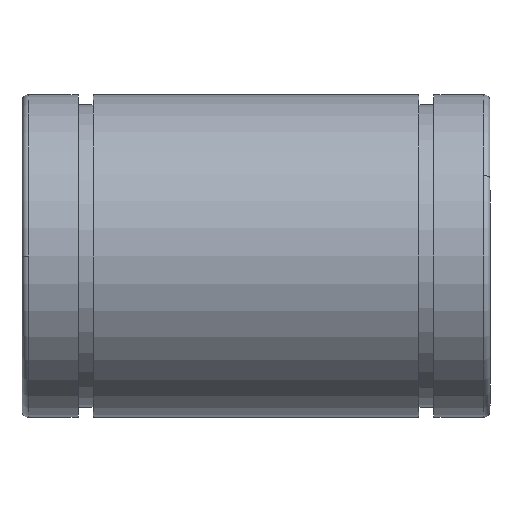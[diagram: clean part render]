
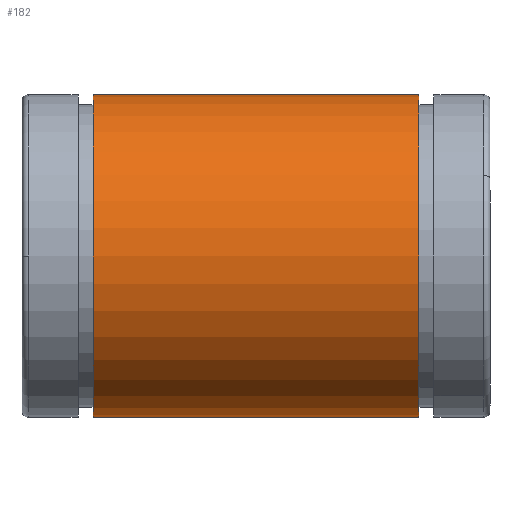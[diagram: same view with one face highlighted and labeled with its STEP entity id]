
A CAD part, front view. The second image highlights one B-rep face of the part: STEP entity #182.
In plain terms, the highlighted cylindrical face has radius 20 mm (diameter 40 mm), a partial arc.
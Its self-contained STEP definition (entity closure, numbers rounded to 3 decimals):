
#5 = DIRECTION ( 'NONE',  ( -1., 0., 0. ) ) ;
#30 = EDGE_CURVE ( 'NONE', #598, #500, #627, .T. ) ;
#49 = CIRCLE ( 'NONE', #1088, 20. ) ;
#51 = FACE_OUTER_BOUND ( 'NONE', #387, .T. ) ;
#109 = CARTESIAN_POINT ( 'NONE',  ( 6.25, 0., 20. ) ) ;
#182 = ADVANCED_FACE ( 'NONE', ( #51 ), #649, .T. ) ;
#191 = CIRCLE ( 'NONE', #464, 20. ) ;
#193 = CARTESIAN_POINT ( 'NONE',  ( 6.25, 0., -20. ) ) ;
#263 = DIRECTION ( 'NONE',  ( -1., 0., 0. ) ) ;
#281 = EDGE_CURVE ( 'NONE', #1175, #682, #490, .T. ) ;
#308 = DIRECTION ( 'NONE',  ( 0., 0., -1. ) ) ;
#348 = CARTESIAN_POINT ( 'NONE',  ( 49.2, 0., -20. ) ) ;
#379 = DIRECTION ( 'NONE',  ( -1., 0., 0. ) ) ;
#387 = EDGE_LOOP ( 'NONE', ( #478, #800, #1081, #451 ) ) ;
#410 = VECTOR ( 'NONE', #379, 1000. ) ;
#451 = ORIENTED_EDGE ( 'NONE', *, *, #281, .F. ) ;
#464 = AXIS2_PLACEMENT_3D ( 'NONE', #1107, #1188, #308 ) ;
#478 = ORIENTED_EDGE ( 'NONE', *, *, #1129, .T. ) ;
#490 = LINE ( 'NONE', #193, #410 ) ;
#495 = CARTESIAN_POINT ( 'NONE',  ( 8.8, 0., -20. ) ) ;
#500 = VERTEX_POINT ( 'NONE', #1070 ) ;
#598 = VERTEX_POINT ( 'NONE', #781 ) ;
#627 = LINE ( 'NONE', #109, #929 ) ;
#642 = EDGE_CURVE ( 'NONE', #500, #682, #191, .T. ) ;
#649 = CYLINDRICAL_SURFACE ( 'NONE', #828, 20. ) ;
#666 = DIRECTION ( 'NONE',  ( 0., 0.5, 0.866 ) ) ;
#682 = VERTEX_POINT ( 'NONE', #495 ) ;
#766 = CARTESIAN_POINT ( 'NONE',  ( 6.25, 0., 0. ) ) ;
#781 = CARTESIAN_POINT ( 'NONE',  ( 49.2, 0., 20. ) ) ;
#800 = ORIENTED_EDGE ( 'NONE', *, *, #30, .T. ) ;
#828 = AXIS2_PLACEMENT_3D ( 'NONE', #766, #263, #843 ) ;
#843 = DIRECTION ( 'NONE',  ( 0., 0., -1. ) ) ;
#870 = DIRECTION ( 'NONE',  ( -1., 0., 0. ) ) ;
#929 = VECTOR ( 'NONE', #5, 1000. ) ;
#953 = CARTESIAN_POINT ( 'NONE',  ( 49.2, 0., 0. ) ) ;
#1070 = CARTESIAN_POINT ( 'NONE',  ( 8.8, 0., 20. ) ) ;
#1081 = ORIENTED_EDGE ( 'NONE', *, *, #642, .T. ) ;
#1088 = AXIS2_PLACEMENT_3D ( 'NONE', #953, #870, #666 ) ;
#1107 = CARTESIAN_POINT ( 'NONE',  ( 8.8, 0., 0. ) ) ;
#1129 = EDGE_CURVE ( 'NONE', #1175, #598, #49, .T. ) ;
#1175 = VERTEX_POINT ( 'NONE', #348 ) ;
#1188 = DIRECTION ( 'NONE',  ( 1., 0., 0. ) ) ;
